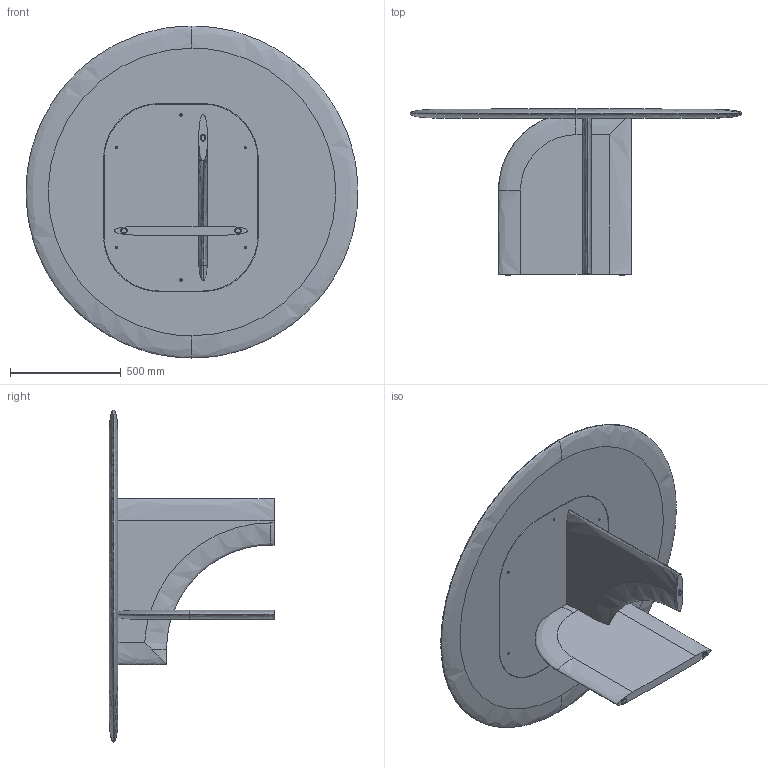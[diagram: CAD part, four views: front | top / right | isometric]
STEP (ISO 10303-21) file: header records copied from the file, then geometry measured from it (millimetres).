
FILE_DESCRIPTION (( 'STEP AP214' ), '1' );
FILE_NAME ('SELCE T Diam.1500.STEP', '2024-05-14T15:57:10', ( '' ), ( '' ), 'SwSTEP 2.0', 'SolidWorks 2023', '' );
FILE_SCHEMA (( 'AUTOMOTIVE_DESIGN' ));
Length unit declared in the file: millimetre
Products named in the file (6): GAMBE e PIASTRA_PIASTRA B; CROCE FERRO; SELCE T Diam.1500; SCIVOLO_IPEA_20PTPD007N; TOP_DIAM 1500; GAMBE e PIASTRA_GAMBA B
Assembly tree (7 placements, depth 2):
  SELCE T Diam.1500
    TOP_DIAM 1500
    GAMBE e PIASTRA_GAMBA B
    GAMBE e PIASTRA_PIASTRA B
    CROCE FERRO
    SCIVOLO_IPEA_20PTPD007N  x3
Bounding box: 1499.43 x 749 x 1500 mm (x, y, z)
Volume: 92169944 mm3; surface area: 6248532.3 mm2
Topology: 9 solids, 9 shells, 329 faces, 831 edges, 497 vertices
Faces by surface type: cylinder 132, cone 80, plane 80, bspline 37
Entity records: 11896 total; most frequent: CARTESIAN_POINT 4594, DIRECTION 1475, ORIENTED_EDGE 1462, EDGE_CURVE 731, AXIS2_PLACEMENT_3D 564, VERTEX_POINT 465, EDGE_LOOP 382, VECTOR 347
